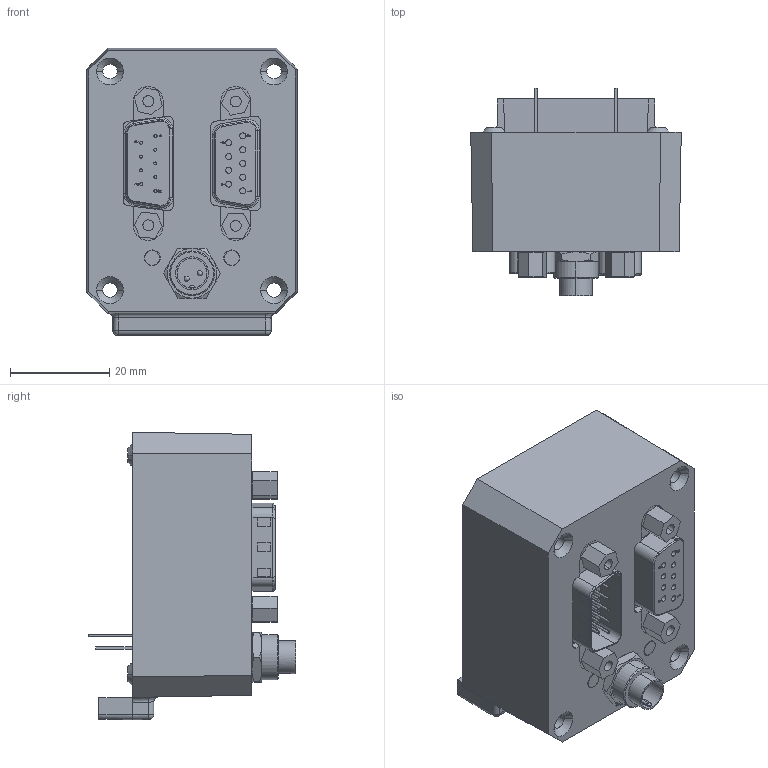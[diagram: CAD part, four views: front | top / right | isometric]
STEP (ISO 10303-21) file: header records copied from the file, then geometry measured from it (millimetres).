
FILE_DESCRIPTION (( 'STEP AP214' ), '1' );
FILE_NAME ('CM1SRL-Rev5.STEP', '2015-02-10T18:48:42', ( '' ), ( '' ), 'SwSTEP 2.0', 'SolidWorks 2015', '' );
FILE_SCHEMA (( 'AUTOMOTIVE_DESIGN' ));
Length unit declared in the file: millimetre
Products named in the file (1): CM1SRL-Rev5
Bounding box: 42.35 x 41.7 x 57.85 mm (x, y, z)
Volume: 21252.1 mm3; surface area: 25695.3 mm2
Topology: 21 solids, 21 shells, 1340 faces, 3240 edges, 2092 vertices
Faces by surface type: plane 857, cylinder 338, bspline 97, cone 44, sphere 4
Entity records: 58645 total; most frequent: CARTESIAN_POINT 12447, ORIENTED_EDGE 6464, DIRECTION 6209, EDGE_CURVE 3232, VECTOR 2301, LINE 2301, VERTEX_POINT 2091, AXIS2_PLACEMENT_3D 1954
